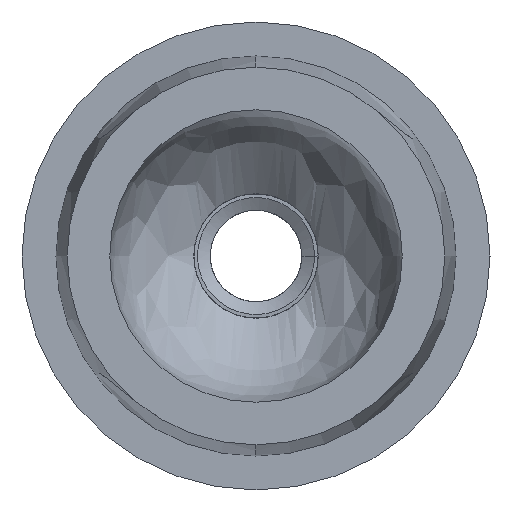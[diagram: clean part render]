
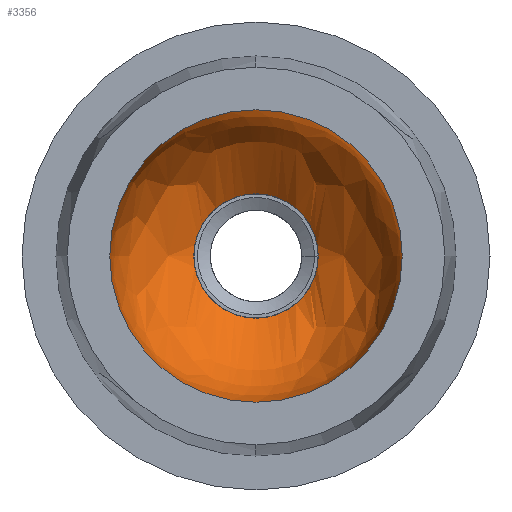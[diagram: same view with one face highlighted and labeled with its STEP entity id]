
A CAD part, left-side view. The second image highlights one B-rep face of the part: STEP entity #3356.
In plain terms, the highlighted free-form (B-spline) face has degree [3, 3] with [4, 4] control points.
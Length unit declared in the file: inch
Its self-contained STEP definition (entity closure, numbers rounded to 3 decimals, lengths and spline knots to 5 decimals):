
#8 = CARTESIAN_POINT ( 'NONE',  ( -0.52972, 0., 0. ) ) ;
#281 = CARTESIAN_POINT ( 'NONE',  ( -0.52972, 0., 0. ) ) ;
#326 = CARTESIAN_POINT ( 'NONE',  ( -0.8125, 0.3125, 0.625 ) ) ;
#338 = DIRECTION ( 'NONE',  ( 0., 0., -1. ) ) ;
#552 = VERTEX_POINT ( 'NONE', #2365 ) ;
#557 = EDGE_LOOP ( 'NONE', ( #1854, #1921 ) ) ;
#595 = CARTESIAN_POINT ( 'NONE',  ( -0.52972, 0., 0.133 ) ) ;
#609 = DIRECTION ( 'NONE',  ( 0., 0., -1. ) ) ;
#653 = CARTESIAN_POINT ( 'NONE',  ( -0.8125, 0.3125, 0. ) ) ;
#894 = CIRCLE ( 'NONE', #3142, 0.133 ) ;
#940 = DIRECTION ( 'NONE',  ( -1., 0., 0. ) ) ;
#966 = CARTESIAN_POINT ( 'NONE',  ( -0.8125, -0.3125, 0. ) ) ;
#981 = CARTESIAN_POINT ( 'NONE',  ( -0.8125, 0.3125, 0. ) ) ;
#996 = DIRECTION ( 'NONE',  ( -1., 0., 0. ) ) ;
#1276 = EDGE_CURVE ( 'NONE', #3033, #3291, #2767, .T. ) ;
#1295 = CARTESIAN_POINT ( 'NONE',  ( -0.8125, -0.3125, -0.625 ) ) ;
#1442 = CARTESIAN_POINT ( 'NONE',  ( -0.8125, -0.3125, 0. ) ) ;
#1447 = FACE_OUTER_BOUND ( 'NONE', #557, .T. ) ;
#1462 = ORIENTED_EDGE ( 'NONE', *, *, #1276, .F. ) ;
#1566 = EDGE_CURVE ( 'NONE', #2703, #552, #2460, .T. ) ;
#1613 = CARTESIAN_POINT ( 'NONE',  ( 0.4375, -0.3125, 0.625 ) ) ;
#1746 = AXIS2_PLACEMENT_3D ( 'NONE', #2932, #996, #3263 ) ;
#1846 = CARTESIAN_POINT ( 'NONE',  ( -0.8125, -0.3125, 0. ) ) ;
#1854 = ORIENTED_EDGE ( 'NONE', *, *, #2565, .T. ) ;
#1921 = ORIENTED_EDGE ( 'NONE', *, *, #1566, .T. ) ;
#1936 = CARTESIAN_POINT ( 'NONE',  ( -0.8125, 0.3125, -0.625 ) ) ;
#2259 = CARTESIAN_POINT ( 'NONE',  ( 0.4375, 0.3125, 0.625 ) ) ;
#2271 = DIRECTION ( 'NONE',  ( -1., 0., 0. ) ) ;
#2365 = CARTESIAN_POINT ( 'NONE',  ( -0.8125, -0.3125, 0. ) ) ;
#2460 = CIRCLE ( 'NONE', #1746, 0.3125 ) ;
#2543 = DIRECTION ( 'NONE',  ( -1., 0., 0. ) ) ;
#2565 = EDGE_CURVE ( 'NONE', #552, #2703, #2706, .T. ) ;
#2585 = CARTESIAN_POINT ( 'NONE',  ( -0.8125, 0.3125, 0. ) ) ;
#2681 = CARTESIAN_POINT ( 'NONE',  ( -0.8125, 0.3125, 0. ) ) ;
#2703 = VERTEX_POINT ( 'NONE', #2681 ) ;
#2706 = CIRCLE ( 'NONE', #3444, 0.3125 ) ;
#2767 = CIRCLE ( 'NONE', #2924, 0.133 ) ;
#2866 = EDGE_CURVE ( 'NONE', #3291, #3033, #894, .T. ) ;
#2879 = CARTESIAN_POINT ( 'NONE',  ( -0.8125, 0., 0. ) ) ;
#2905 =( BOUNDED_SURFACE ( )  B_SPLINE_SURFACE ( 3, 3, ( 
 ( #1846, #1442, #966, #3234 ),
 ( #1295, #3557, #1613, #3882 ),
 ( #1936, #4204, #2259, #326 ),
 ( #2585, #653, #2914, #981 ) ),
 .UNSPECIFIED., .F., .F., .T. ) 
 B_SPLINE_SURFACE_WITH_KNOTS ( ( 4, 4 ),
 ( 4, 4 ),
 ( 0., 1. ),
 ( 0., 1. ),
 .UNSPECIFIED. ) 
 GEOMETRIC_REPRESENTATION_ITEM ( )  RATIONAL_B_SPLINE_SURFACE ( (
 ( 1., 0.333, 0.333, 1.),
 ( 0.333, 0.111, 0.111, 0.333),
 ( 0.333, 0.111, 0.111, 0.333),
 ( 1., 0.333, 0.333, 1.) ) ) 
 REPRESENTATION_ITEM ( '' )  SURFACE ( )  );
#2914 = CARTESIAN_POINT ( 'NONE',  ( -0.8125, 0.3125, 0. ) ) ;
#2920 = EDGE_LOOP ( 'NONE', ( #4201, #1462 ) ) ;
#2924 = AXIS2_PLACEMENT_3D ( 'NONE', #8, #2271, #338 ) ;
#2932 = CARTESIAN_POINT ( 'NONE',  ( -0.8125, 0., 0. ) ) ;
#3033 = VERTEX_POINT ( 'NONE', #595 ) ;
#3142 = AXIS2_PLACEMENT_3D ( 'NONE', #281, #2543, #609 ) ;
#3211 = DIRECTION ( 'NONE',  ( 0., 1., 0. ) ) ;
#3234 = CARTESIAN_POINT ( 'NONE',  ( -0.8125, -0.3125, 0. ) ) ;
#3263 = DIRECTION ( 'NONE',  ( 0., 1., 0. ) ) ;
#3291 = VERTEX_POINT ( 'NONE', #3710 ) ;
#3356 = ADVANCED_FACE ( 'NONE', ( #4026, #1447 ), #2905, .F. ) ;
#3444 = AXIS2_PLACEMENT_3D ( 'NONE', #2879, #940, #3211 ) ;
#3557 = CARTESIAN_POINT ( 'NONE',  ( 0.4375, -0.3125, -0.625 ) ) ;
#3710 = CARTESIAN_POINT ( 'NONE',  ( -0.52972, 0., -0.133 ) ) ;
#3882 = CARTESIAN_POINT ( 'NONE',  ( -0.8125, -0.3125, 0.625 ) ) ;
#4026 = FACE_BOUND ( 'NONE', #2920, .T. ) ;
#4201 = ORIENTED_EDGE ( 'NONE', *, *, #2866, .F. ) ;
#4204 = CARTESIAN_POINT ( 'NONE',  ( 0.4375, 0.3125, -0.625 ) ) ;
